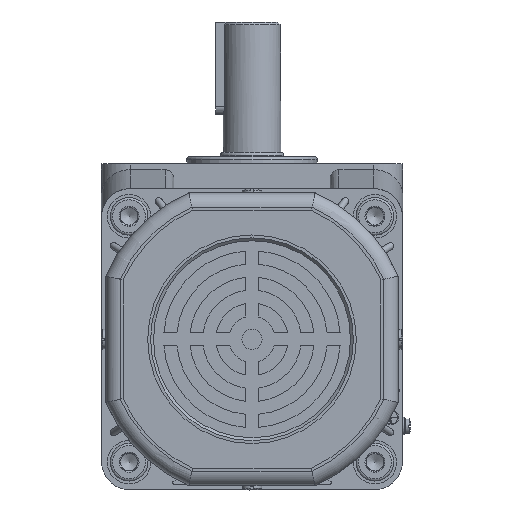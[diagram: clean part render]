
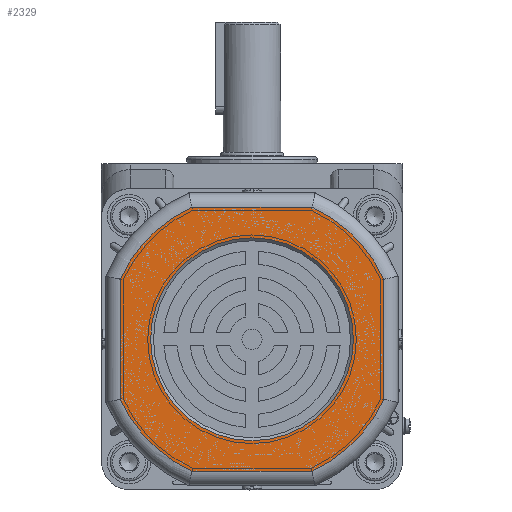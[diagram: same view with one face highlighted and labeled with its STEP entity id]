
A CAD part, left-side view. The second image highlights one B-rep face of the part: STEP entity #2329.
In plain terms, the highlighted planar face has unit normal (-1, 0, 0).
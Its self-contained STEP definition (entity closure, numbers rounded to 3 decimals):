
#642=FACE_BOUND('',#6150,.T.);
#643=FACE_BOUND('',#6151,.T.);
#2329=ADVANCED_FACE('',(#642,#643),#3876,.F.);
#3876=PLANE('',#29005);
#6150=EDGE_LOOP('',(#12242));
#6151=EDGE_LOOP('',(#12243,#12244,#12245,#12246,#12247,#12248,#12249,#12250));
#8069=LINE('',#40840,#9676);
#8070=LINE('',#40856,#9677);
#8073=LINE('',#40908,#9680);
#8074=LINE('',#40924,#9681);
#9676=VECTOR('',#32063,1.);
#9677=VECTOR('',#32066,1.);
#9680=VECTOR('',#32083,1.);
#9681=VECTOR('',#32086,1.);
#12242=ORIENTED_EDGE('',*,*,#22160,.T.);
#12243=ORIENTED_EDGE('',*,*,#22170,.T.);
#12244=ORIENTED_EDGE('',*,*,#22165,.T.);
#12245=ORIENTED_EDGE('',*,*,#22172,.T.);
#12246=ORIENTED_EDGE('',*,*,#22178,.T.);
#12247=ORIENTED_EDGE('',*,*,#22184,.T.);
#12248=ORIENTED_EDGE('',*,*,#22186,.T.);
#12249=ORIENTED_EDGE('',*,*,#22182,.T.);
#12250=ORIENTED_EDGE('',*,*,#22176,.T.);
#19386=VERTEX_POINT('',#40785);
#19391=VERTEX_POINT('',#40807);
#19392=VERTEX_POINT('',#40809);
#19394=VERTEX_POINT('',#40837);
#19397=VERTEX_POINT('',#40855);
#19398=VERTEX_POINT('',#40871);
#19401=VERTEX_POINT('',#40889);
#19402=VERTEX_POINT('',#40905);
#19405=VERTEX_POINT('',#40923);
#22160=EDGE_CURVE('',#19386,#19386,#27140,.T.);
#22165=EDGE_CURVE('',#19392,#19391,#27144,.T.);
#22170=EDGE_CURVE('',#19394,#19392,#8069,.T.);
#22172=EDGE_CURVE('',#19391,#19397,#8070,.T.);
#22176=EDGE_CURVE('',#19398,#19394,#27147,.T.);
#22178=EDGE_CURVE('',#19397,#19401,#27148,.T.);
#22182=EDGE_CURVE('',#19402,#19398,#8073,.T.);
#22184=EDGE_CURVE('',#19401,#19405,#8074,.T.);
#22186=EDGE_CURVE('',#19405,#19402,#27150,.T.);
#27140=CIRCLE('',#28743,35.);
#27144=CIRCLE('',#28749,50.);
#27147=CIRCLE('',#28755,50.);
#27148=CIRCLE('',#28757,50.);
#27150=CIRCLE('',#28762,50.);
#28743=AXIS2_PLACEMENT_3D('',#40784,#32044,#32045);
#28749=AXIS2_PLACEMENT_3D('',#40808,#32056,#32057);
#28755=AXIS2_PLACEMENT_3D('',#40874,#32072,#32073);
#28757=AXIS2_PLACEMENT_3D('',#40890,#32076,#32077);
#28762=AXIS2_PLACEMENT_3D('',#40927,#32090,#32091);
#29005=AXIS2_PLACEMENT_3D('',#41676,#32768,#32769);
#32044=DIRECTION('',(1.,0.,0.));
#32045=DIRECTION('',(0.,-1.,0.));
#32056=DIRECTION('',(-1.,0.,0.));
#32057=DIRECTION('',(0.,0.,1.));
#32063=DIRECTION('',(0.,-1.,0.));
#32066=DIRECTION('',(0.,0.,1.));
#32072=DIRECTION('',(-1.,0.,0.));
#32073=DIRECTION('',(0.,0.,1.));
#32076=DIRECTION('',(-1.,0.,0.));
#32077=DIRECTION('',(0.,0.,1.));
#32083=DIRECTION('',(0.,0.,-1.));
#32086=DIRECTION('',(0.,1.,0.));
#32090=DIRECTION('',(-1.,0.,0.));
#32091=DIRECTION('',(0.,0.,1.));
#32768=DIRECTION('',(1.,0.,0.));
#32769=DIRECTION('',(0.,0.,1.));
#40784=CARTESIAN_POINT('',(-246.8,-120.671,-58.491));
#40785=CARTESIAN_POINT('',(-246.8,-155.671,-58.491));
#40807=CARTESIAN_POINT('',(-246.8,-166.171,-79.221));
#40808=CARTESIAN_POINT('',(-246.8,-120.671,-58.491));
#40809=CARTESIAN_POINT('',(-246.8,-141.402,-103.991));
#40837=CARTESIAN_POINT('',(-246.8,-99.941,-103.991));
#40840=CARTESIAN_POINT('',(-246.8,-142.46,-103.991));
#40855=CARTESIAN_POINT('',(-246.8,-166.171,-37.76));
#40856=CARTESIAN_POINT('',(-246.8,-166.171,-36.702));
#40871=CARTESIAN_POINT('',(-246.8,-75.171,-79.221));
#40874=CARTESIAN_POINT('',(-246.8,-120.671,-58.491));
#40889=CARTESIAN_POINT('',(-246.8,-141.402,-12.991));
#40890=CARTESIAN_POINT('',(-246.8,-120.671,-58.491));
#40905=CARTESIAN_POINT('',(-246.8,-75.171,-37.76));
#40908=CARTESIAN_POINT('',(-246.8,-75.171,-80.28));
#40923=CARTESIAN_POINT('',(-246.8,-99.941,-12.991));
#40924=CARTESIAN_POINT('',(-246.8,-98.882,-12.991));
#40927=CARTESIAN_POINT('',(-246.8,-120.671,-58.491));
#41676=CARTESIAN_POINT('',(-246.8,-120.671,-58.491));
